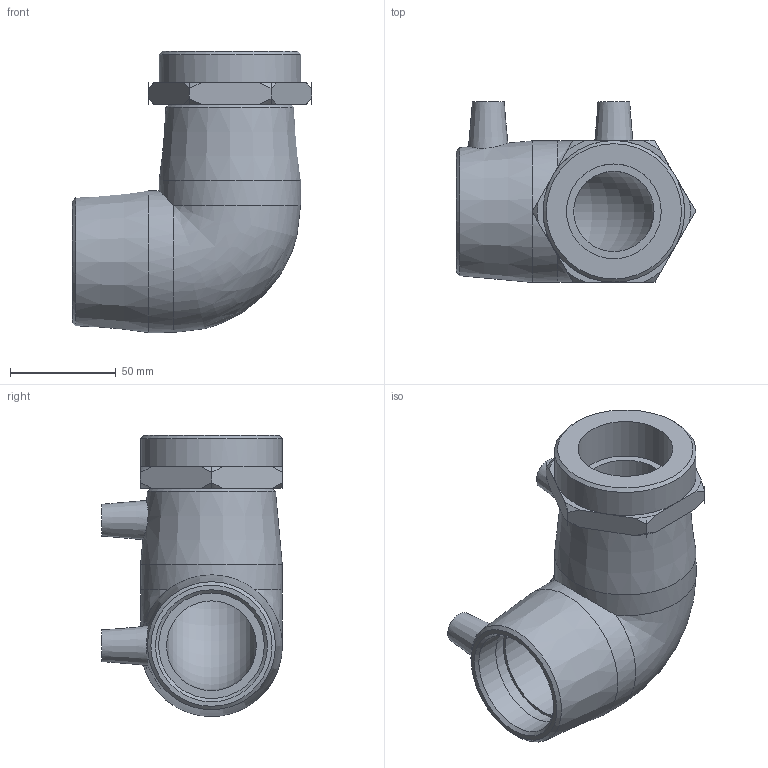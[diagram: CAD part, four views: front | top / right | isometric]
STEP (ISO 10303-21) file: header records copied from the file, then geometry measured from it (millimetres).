
FILE_DESCRIPTION(/* description */ ('PLASSON 90° ELBOW FEMALE TRANSITION 50-1.1/2'''''),/* implementation_level */ '2;1');
FILE_NAME(/* name */ 'C:\Dropbox\KIMPROJECTS-Inventor\99-16-3568-Processing\ElectroFusion Fittings\02.02.20\493504\493504050015.ipt.stp',/* time_stamp */ '2020-02-02T12:34:32+02:00',/* author */ ('KIM'),/* organization */ (''),/* preprocessor_version */ 'ST-DEVELOPER v15.6',/* originating_system */ 'Autodesk Inventor 2015',/* authorisation */ '');
FILE_SCHEMA (('AUTOMOTIVE_DESIGN { 1 0 10303 214 3 1 1 }'));
Length unit declared in the file: millimetre
Products named in the file (1): 493504050015
Bounding box: 113.18 x 85.59 x 133 mm (x, y, z)
Volume: 313980.1 mm3; surface area: 68228.5 mm2
Topology: 1 solids, 2 shells, 76 faces, 206 edges, 141 vertices
Faces by surface type: plane 27, cylinder 25, cone 22, bspline 1, torus 1
Full cylindrical faces by diameter (mm): 4 x2, 10 x2, 38 x1, 44.845 x1, 50 x4, 67 x3
Entity records: 2375 total; most frequent: CARTESIAN_POINT 512, DIRECTION 384, ORIENTED_EDGE 332, AXIS2_PLACEMENT_3D 168, EDGE_CURVE 166, VERTEX_POINT 129, EDGE_LOOP 115, CIRCLE 91
